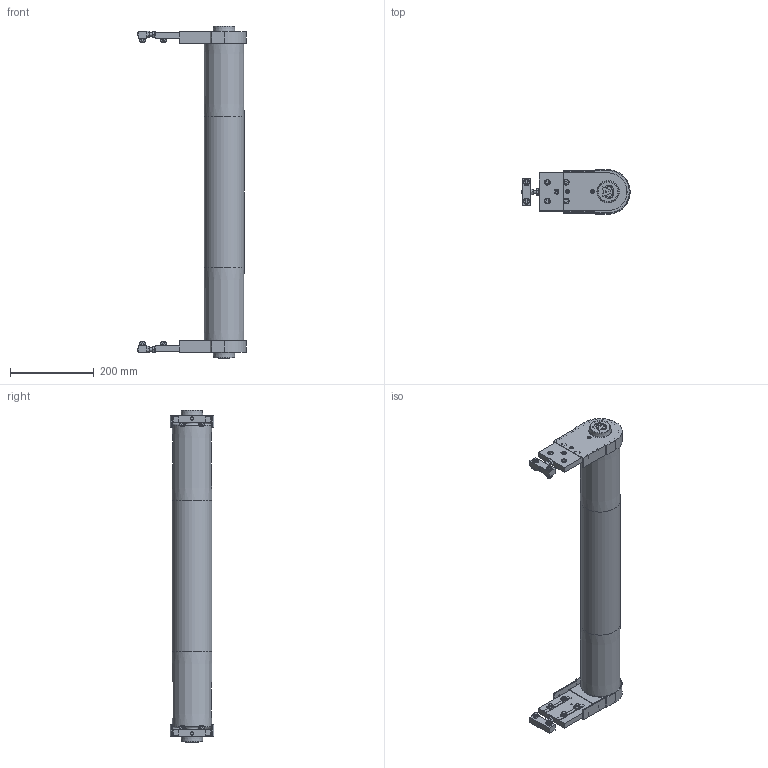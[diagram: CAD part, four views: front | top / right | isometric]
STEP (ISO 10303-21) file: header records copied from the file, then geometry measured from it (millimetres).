
FILE_DESCRIPTION (( 'STEP AP214' ), '1' );
FILE_NAME ('084.095.KIC.700.STEP', '2020-06-08T14:50:59', ( '' ), ( '' ), 'SwSTEP 2.0', 'SolidWorks 2018', '' );
FILE_SCHEMA (( 'AUTOMOTIVE_DESIGN' ));
Length unit declared in the file: millimetre
Products named in the file (11): 084.802.019_084.802.019; 084.803.005-1; 084.808.006_084.808.002; 084.812.003; 084.095.KIC.700; 084.816.114_084.816.110<A macchina>; 084.301.000 VITI ALUSIC_084.301.003; circlip for shafts normal_din_PreviewCfg; 084.810.003; 084.302.000 DADI ALUSIC 13x13_084.302.004; 084.803.003
Assembly tree (39 placements, depth 2):
  084.095.KIC.700
    084.301.000 VITI ALUSIC_084.301.003  x12
    084.302.000 DADI ALUSIC 13x13_084.302.004  x12
    084.816.114_084.816.110<A macchina>
    084.812.003  x2
    084.808.006_084.808.002  x2
    084.810.003  x2
    084.802.019_084.802.019  x2
    084.803.003  x2
    circlip for shafts normal_din_PreviewCfg  x2
    084.803.005-1  x2
Bounding box: 258.5 x 105 x 793 mm (x, y, z)
Volume: 2119545.8 mm3; surface area: 1025879.1 mm2
Topology: 45 solids, 47 shells, 1219 faces, 3159 edges, 2100 vertices
Faces by surface type: plane 871, cylinder 198, torus 52, bspline 48, cone 46, sphere 4
Full cylindrical faces by diameter (mm): 1.5 x4, 3.3 x4, 4 x2, 4.2 x2, 6.8 x14, 8 x16, 9 x12, 13 x12, 13.5 x8, 15 x4, 20 x4, 28.6 x2, 30 x6, 32 x6, 32.5 x4, 39.5 x4, 41 x4, 44 x2, 95 x1
Entity records: 16458 total; most frequent: CARTESIAN_POINT 3242, ORIENTED_EDGE 2538, DIRECTION 2538, EDGE_CURVE 1269, VECTOR 920, LINE 920, VERTEX_POINT 881, AXIS2_PLACEMENT_3D 809
